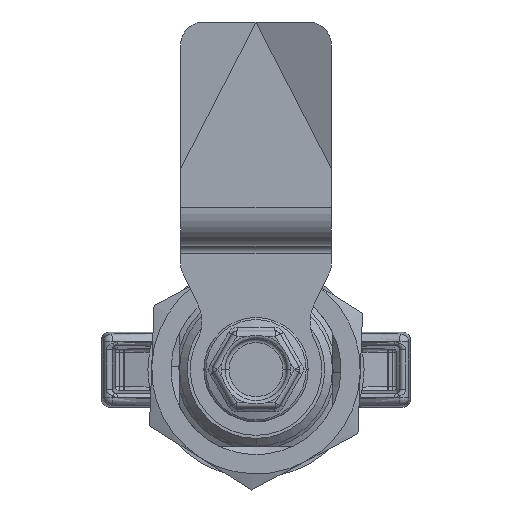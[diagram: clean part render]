
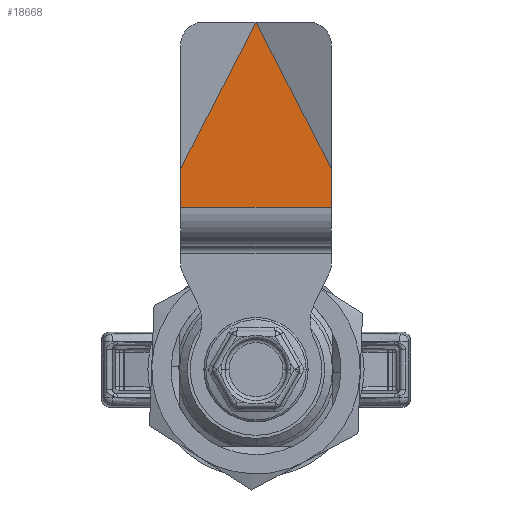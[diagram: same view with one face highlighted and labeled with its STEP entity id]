
A CAD part, front view. The second image highlights one B-rep face of the part: STEP entity #18668.
In plain terms, the highlighted planar face has unit normal (0, -1, 0).
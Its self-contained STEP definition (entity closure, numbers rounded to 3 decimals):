
#17937=DIRECTION('',(-1.,0.,0.));
#17938=VECTOR('',#17937,5.);
#17939=CARTESIAN_POINT('',(-21.,-14.,-9.75));
#17940=LINE('',#17939,#17938);
#18073=DIRECTION('',(0.,0.,-1.));
#18074=VECTOR('',#18073,19.5);
#18075=CARTESIAN_POINT('',(-21.,-14.,9.75));
#18076=LINE('',#18075,#18074);
#18081=DIRECTION('',(-0.89,0.,-0.457));
#18082=VECTOR('',#18081,21.356);
#18083=CARTESIAN_POINT('',(-26.,-14.,9.75));
#18084=LINE('',#18083,#18082);
#18085=DIRECTION('',(-1.,0.,0.));
#18086=VECTOR('',#18085,5.);
#18087=CARTESIAN_POINT('',(-21.,-14.,9.75));
#18088=LINE('',#18087,#18086);
#18089=DIRECTION('',(0.89,0.,-0.457));
#18090=VECTOR('',#18089,21.356);
#18091=CARTESIAN_POINT('',(-45.,-14.,0.));
#18092=LINE('',#18091,#18090);
#18293=CARTESIAN_POINT('',(-45.,-14.,0.));
#18294=VERTEX_POINT('',#18293);
#18295=CARTESIAN_POINT('',(-26.,-14.,-9.75));
#18297=VERTEX_POINT('',#18295);
#18303=CARTESIAN_POINT('',(-26.,-14.,9.75));
#18304=VERTEX_POINT('',#18303);
#18311=CARTESIAN_POINT('',(-21.,-14.,-9.75));
#18312=VERTEX_POINT('',#18311);
#18358=CARTESIAN_POINT('',(-21.,-14.,9.75));
#18359=VERTEX_POINT('',#18358);
#18654=CARTESIAN_POINT('',(-45.,-14.,9.75));
#18655=DIRECTION('',(0.,1.,0.));
#18656=DIRECTION('',(-1.,0.,0.));
#18657=AXIS2_PLACEMENT_3D('',#18654,#18655,#18656);
#18658=PLANE('',#18657);
#18660=ORIENTED_EDGE('',*,*,#18659,.F.);
#18661=ORIENTED_EDGE('',*,*,#18592,.F.);
#18662=ORIENTED_EDGE('',*,*,#18647,.T.);
#18663=ORIENTED_EDGE('',*,*,#18475,.T.);
#18665=ORIENTED_EDGE('',*,*,#18664,.F.);
#18666=EDGE_LOOP('',(#18660,#18661,#18662,#18663,#18665));
#18667=FACE_OUTER_BOUND('',#18666,.F.);
#18475=EDGE_CURVE('',#18312,#18297,#17940,.T.);
#18592=EDGE_CURVE('',#18359,#18304,#18088,.T.);
#18647=EDGE_CURVE('',#18359,#18312,#18076,.T.);
#18659=EDGE_CURVE('',#18304,#18294,#18084,.T.);
#18664=EDGE_CURVE('',#18294,#18297,#18092,.T.);
#18668=ADVANCED_FACE('',(#18667),#18658,.F.);
